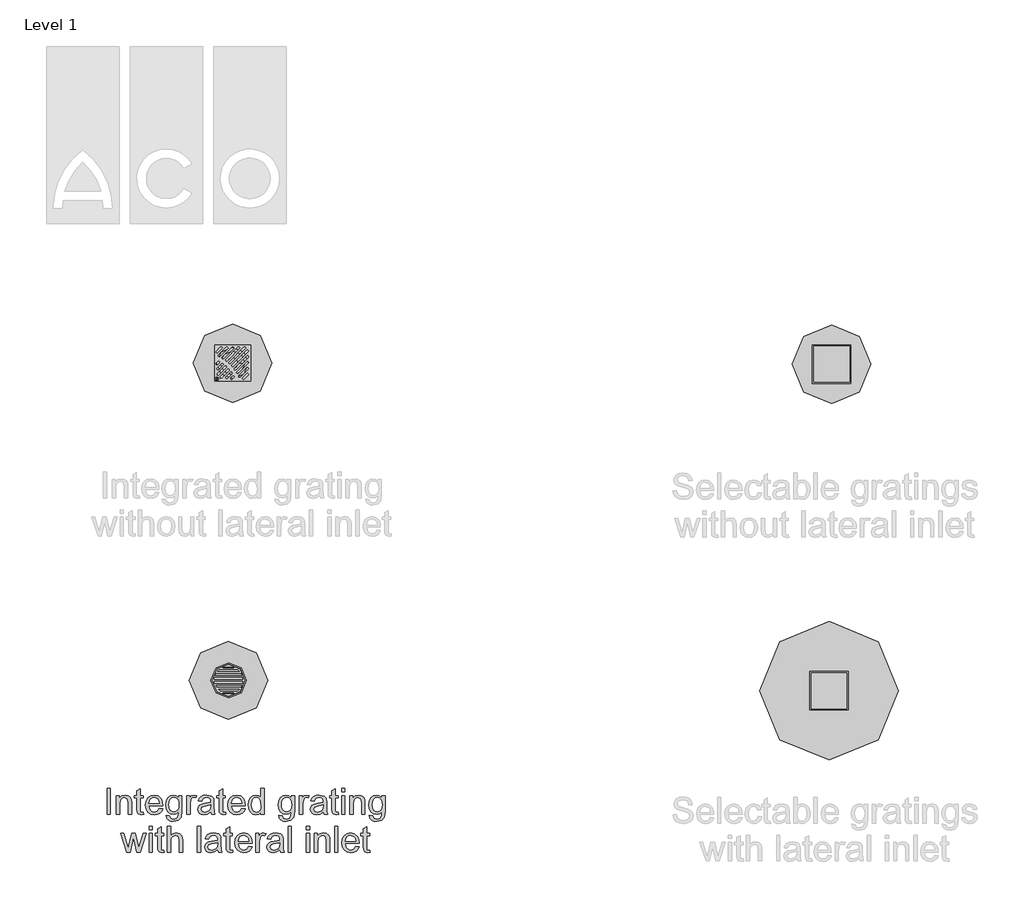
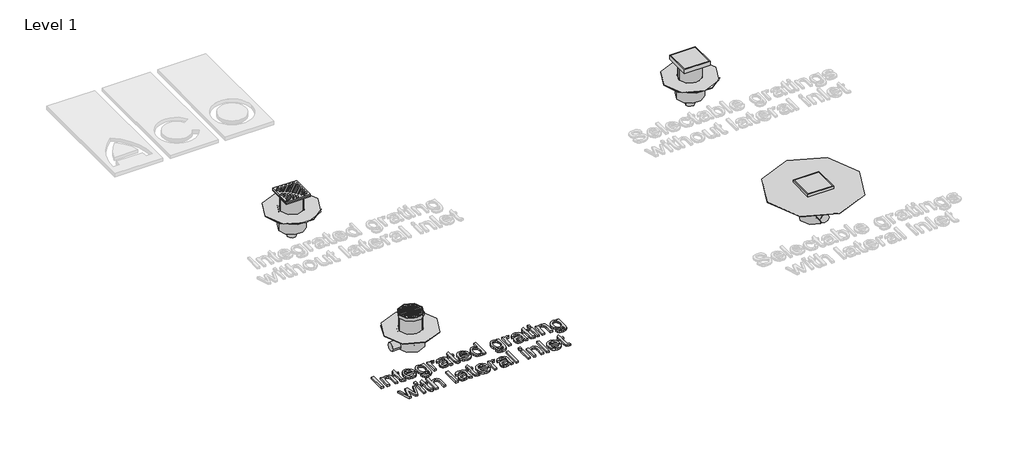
# One storey, part 1 of 4: 15 sanitary terminals, 4 pipe fittings, 1 proxy.
"""IFC4 building model written with IfcOpenShell, lengths in millimetres."""

from ifc_helpers import new_model, si_unit, origin, origin_with_axes, place, context, project, spatial, polyline, outline, extrude, transform, mapped, element, save
from components import std_nested_ba2fb492, std_nested_5614749a, forest_lockable_cee7f754, std_nested_a513f84e, std_nested_aac93e22, std_nested_ec2660e4, std_nested_ef57f552, std_nested_4c5e4d0c, std_nested_a4f35663, std_nested_d89320c1, std_nested_e99c1087

model = new_model("IFC4")

# Units and contexts
model_context = context("Model", 3, world=origin())
ifc_project = project(units=[si_unit("LENGTHUNIT", "METRE", prefix="MILLI")], contexts=[model_context])

# Site, building, storey
site = spatial("IfcSite", under=ifc_project)
building = spatial("IfcBuilding", under=site)
storey = spatial("IfcBuildingStorey", under=building, Name="Level 1", Elevation=0.0)

# Proxy
placement = place(None, origin())
element("IfcBuildingElementProxy", 1, Name="100mm ACO", ObjectType="100mm ACO", at=placement, inside=storey, context=model_context, shape_type="SweptSolid", body=[
    extrude(outline(polyline([(1762.1937772, -2112.0865747), (1749.2308143, -2112.0865747), (1749.2308143, -2012.0865747), (1762.1937772, -2012.0865747), (1762.1937772, -2112.0865747)])), origin_with_axes(), (0.0, 0.0, 1.0), 10.0),
    extrude(outline(polyline([(1843.6752587, -2112.0865747), (1830.7122957, -2112.0865747), (1830.7122957, -2067.1212969), (1826.8494485, -2051.5252321), (1816.1000272, -2047.2717598), (1806.0739856, -2049.9916673), (1799.3610226, -2057.6594913), (1797.3789624, -2071.664121), (1797.3789624, -2112.0865747), (1784.4159994, -2112.0865747), (1784.4159994, -2039.8643524), (1795.5271106, -2039.8643524), (1795.5271106, -2049.9048617), (1805.4229439, -2040.9783571), (1818.6752587, -2038.0125006), (1830.0467865, -2040.0668987), (1838.8430828, -2046.2156256), (1842.8506059, -2054.9540515), (1843.6752587, -2067.4974543), (1843.6752587, -2112.0865747)])), origin_with_axes(), (0.0, 0.0, 1.0), 10.0),
    extrude(outline(polyline([(1889.971555, -2113.0993061), (1880.8859069, -2113.9384265), (1869.2973652, -2111.0593756), (1864.8558143, -2103.7532413), (1864.0456291, -2091.4268524), (1864.0456291, -2049.1236117), (1854.7863698, -2049.1236117), (1854.7863698, -2039.8643524), (1864.0456291, -2039.8643524), (1864.0456291, -2021.519445), (1877.008592, -2013.9384265), (1877.008592, -2039.8643524), (1888.1197031, -2039.8643524), (1888.1197031, -2049.1236117), (1877.008592, -2049.1236117), (1877.008592, -2094.0310191), (1878.0502587, -2102.2486117), (1883.3453976, -2104.6791673), (1888.3801198, -2104.6791673), (1889.971555, -2113.0993061)])), origin_with_axes(), (0.0, 0.0, 1.0), 10.0),
    extrude(outline(polyline([(1964.0456291, -2078.7532413), (1910.3419254, -2078.7532413), (1912.414408, -2089.87882), (1917.1272263, -2098.0240747), (1923.9089103, -2103.0153941), (1932.1879902, -2104.6791673), (1943.8633374, -2100.9899311), (1951.0826661, -2089.8643524), (1964.0456291, -2091.3689821), (1959.6691823, -2100.9899311), (1952.7319717, -2108.0935191), (1943.48718, -2112.4771997), (1932.1879902, -2113.9384265), (1917.60104, -2111.4319161), (1906.5948189, -2103.9123848), (1899.6829265, -2092.0525758), (1897.3789624, -2076.5252321), (1899.5997379, -2060.9870376), (1906.2620643, -2048.6895839), (1916.960849, -2040.6817714), (1931.2909994, -2038.0125006), (1946.5109069, -2041.4702552), (1958.9385689, -2053.2468756), (1962.768864, -2063.7828999), (1964.0456291, -2078.7532413)]), holes=[polyline([(1951.0826661, -2069.4939821), (1948.9993328, -2059.3377321), (1944.2539624, -2052.4800932), (1930.9727124, -2047.2717598), (1923.1168096, -2048.8197923), (1916.7944717, -2053.4638895), (1910.3419254, -2069.4939821), (1951.0826661, -2069.4939821)])]), origin_with_axes(), (0.0, 0.0, 1.0), 10.0),
    extrude(outline(polyline([(2038.1197031, -2101.4384265), (2035.0670411, -2124.0802089), (2024.2018791, -2135.7121534), (2005.5386846, -2139.8643524), (1994.3226835, -2138.4573791), (1985.1538467, -2134.2364589), (1979.0449057, -2126.810967), (1977.008592, -2115.7902784), (1989.971555, -2117.8446765), (1994.5433143, -2127.4077552), (2005.7412309, -2130.6050932), (2019.0514161, -2126.9158571), (2024.2163467, -2117.9314821), (2025.1567402, -2103.3192135), (2016.3821453, -2109.8947344), (2005.5676198, -2112.0865747), (1993.1761268, -2109.4751742), (1983.4900735, -2101.6409728), (1977.2400735, -2089.8281835), (1975.1567402, -2075.2810191), (1977.1388004, -2060.6398154), (1983.0849809, -2048.6606487), (1992.5323189, -2040.6745376), (2005.0178513, -2038.0125006), (2016.0927934, -2040.3924196), (2024.8963235, -2047.5321765), (2025.1567402, -2039.8643524), (2038.1197031, -2039.8643524), (2038.1197031, -2101.4384265)]), holes=[polyline([(2007.5062772, -2102.8273154), (2014.7183721, -2101.2214126), (2021.0768791, -2096.4037043), (2025.5256638, -2087.8099543), (2027.008592, -2074.8759265), (2025.5943849, -2063.0884554), (2021.3517633, -2054.404283), (2015.0258085, -2049.0548906), (2007.3616013, -2047.2717598), (1999.6395237, -2049.0982934), (1993.48718, -2054.5778941), (1989.4615724, -2063.2331314), (1988.1197031, -2074.5865747), (1989.5266765, -2087.3035885), (1993.7475967, -2096.0564821), (2000.0012136, -2101.1346071), (2007.5062772, -2102.8273154)])]), origin_with_axes(), (0.0, 0.0, 1.0), 10.0),
    extrude(outline(polyline([(2095.5271106, -2040.8481487), (2091.4761846, -2049.1236117), (2082.9692402, -2047.2717598), (2077.1749694, -2048.899364), (2072.9866013, -2053.7821765), (2069.6011846, -2072.0113432), (2069.6011846, -2112.0865747), (2056.6382217, -2112.0865747), (2056.6382217, -2039.8643524), (2067.7493328, -2039.8643524), (2067.7493328, -2050.570371), (2074.6793096, -2041.1519682), (2083.1139161, -2038.0125006), (2095.5271106, -2040.8481487)])), origin_with_axes(), (0.0, 0.0, 1.0), 10.0),
    extrude(outline(polyline([(2165.8974809, -2112.0865747), (2152.934518, -2112.0865747), (2149.2308143, -2103.3481487), (2136.7380481, -2111.2908571), (2123.2759531, -2113.9384265), (2113.2896974, -2112.4916673), (2105.668893, -2108.1513895), (2100.8403339, -2101.4384265), (2099.2308143, -2092.8736117), (2100.8077819, -2084.5655967), (2105.5386846, -2077.8707182), (2114.1686036, -2072.977055), (2127.4426198, -2070.0726858), (2138.7852124, -2068.3365747), (2149.2308143, -2065.7902784), (2148.8980596, -2057.7607645), (2146.9594022, -2052.8851858), (2141.7944717, -2048.8197923), (2132.2169254, -2047.2717598), (2120.1364856, -2050.4112274), (2114.0456291, -2062.0865747), (2101.0826661, -2060.4951395), (2104.638077, -2050.6861117), (2111.3112541, -2043.6548617), (2121.0949636, -2039.4230909), (2133.9819717, -2038.0125006), (2153.2383374, -2041.8753478), (2160.7904207, -2051.1924774), (2162.1937772, -2065.2405098), (2162.1937772, -2081.7625006), (2162.7435457, -2102.0171302), (2165.8974809, -2112.0865747)]), holes=[polyline([(2149.2308143, -2079.6791673), (2149.2308143, -2075.0495376), (2125.9524578, -2080.3736117), (2115.6334474, -2084.4317714), (2112.1937772, -2092.6710654), (2115.8974809, -2101.2937506), (2126.5745643, -2104.6791673), (2142.387643, -2099.007871), (2147.5200214, -2091.3400469), (2149.2308143, -2079.6791673)])]), origin_with_axes(), (0.0, 0.0, 1.0), 10.0),
    extrude(outline(polyline([(2208.4900735, -2113.0993061), (2199.4044254, -2113.9384265), (2187.8158837, -2111.0593756), (2183.3743328, -2103.7532413), (2182.5641476, -2091.4268524), (2182.5641476, -2049.1236117), (2173.3048883, -2049.1236117), (2173.3048883, -2039.8643524), (2182.5641476, -2039.8643524), (2182.5641476, -2021.519445), (2195.5271106, -2013.9384265), (2195.5271106, -2039.8643524), (2206.6382217, -2039.8643524), (2206.6382217, -2049.1236117), (2195.5271106, -2049.1236117), (2195.5271106, -2094.0310191), (2196.5687772, -2102.2486117), (2201.8639161, -2104.6791673), (2206.8986383, -2104.6791673), (2208.4900735, -2113.0993061)])), origin_with_axes(), (0.0, 0.0, 1.0), 10.0),
    extrude(outline(polyline([(2282.5641476, -2078.7532413), (2228.8604439, -2078.7532413), (2230.9329265, -2089.87882), (2235.6457448, -2098.0240747), (2242.4274288, -2103.0153941), (2250.7065087, -2104.6791673), (2262.3818559, -2100.9899311), (2269.6011846, -2089.8643524), (2282.5641476, -2091.3689821), (2278.1877008, -2100.9899311), (2271.2504902, -2108.0935191), (2262.0056985, -2112.4771997), (2250.7065087, -2113.9384265), (2236.1195585, -2111.4319161), (2225.1133374, -2103.9123848), (2218.201445, -2092.0525758), (2215.8974809, -2076.5252321), (2218.1182564, -2060.9870376), (2224.7805828, -2048.6895839), (2235.4793675, -2040.6817714), (2249.809518, -2038.0125006), (2265.0294254, -2041.4702552), (2277.4570874, -2053.2468756), (2281.2873825, -2063.7828999), (2282.5641476, -2078.7532413)]), holes=[polyline([(2269.6011846, -2069.4939821), (2267.5178513, -2059.3377321), (2262.7724809, -2052.4800932), (2249.4912309, -2047.2717598), (2241.6353281, -2048.8197923), (2235.3129902, -2053.4638895), (2228.8604439, -2069.4939821), (2269.6011846, -2069.4939821)])]), origin_with_axes(), (0.0, 0.0, 1.0), 10.0),
    extrude(outline(polyline([(2356.6382217, -2112.0865747), (2343.6752587, -2112.0865747), (2343.6752587, -2103.9268524), (2335.320224, -2111.435533), (2323.9414624, -2113.9384265), (2312.0744196, -2111.2980909), (2302.3413467, -2103.3770839), (2295.8417807, -2091.2460075), (2293.6752587, -2075.9754635), (2295.7513582, -2060.2347228), (2301.9796569, -2048.1976858), (2311.6150735, -2040.5587969), (2323.9125272, -2038.0125006), (2335.1972494, -2040.2983802), (2343.414842, -2047.1560191), (2343.6752587, -2012.0865747), (2356.6382217, -2012.0865747), (2356.6382217, -2112.0865747)]), holes=[polyline([(2325.446092, -2104.6791673), (2332.4990434, -2102.9719913), (2338.3801198, -2097.8504635), (2342.351474, -2089.2567135), (2343.6752587, -2077.132871), (2338.8286152, -2055.3736117), (2332.9294543, -2049.2972228), (2324.9252587, -2047.2717598), (2316.9789335, -2049.25382), (2311.2533837, -2055.2000006), (2306.6382217, -2076.0043987), (2309.1266476, -2091.7596071), (2316.071092, -2101.4384265), (2325.446092, -2104.6791673)])]), origin_with_axes(), (0.0, 0.0, 1.0), 10.0),
    extrude(outline(polyline([(2473.3048883, -2101.4384265), (2470.2522263, -2124.0802089), (2459.3870643, -2135.7121534), (2440.7238698, -2139.8643524), (2429.5078687, -2138.4573791), (2420.3390319, -2134.2364589), (2414.2300909, -2126.810967), (2412.1937772, -2115.7902784), (2425.1567402, -2117.8446765), (2429.7284994, -2127.4077552), (2440.9264161, -2130.6050932), (2454.2366013, -2126.9158571), (2459.4015319, -2117.9314821), (2460.3419254, -2103.3192135), (2451.5673305, -2109.8947344), (2440.752805, -2112.0865747), (2428.3613119, -2109.4751742), (2418.6752587, -2101.6409728), (2412.4252587, -2089.8281835), (2410.3419254, -2075.2810191), (2412.3239856, -2060.6398154), (2418.2701661, -2048.6606487), (2427.7175041, -2040.6745376), (2440.2030365, -2038.0125006), (2451.2779786, -2040.3924196), (2460.0815087, -2047.5321765), (2460.3419254, -2039.8643524), (2473.3048883, -2039.8643524), (2473.3048883, -2101.4384265)]), holes=[polyline([(2442.6914624, -2102.8273154), (2449.9035573, -2101.2214126), (2456.2620643, -2096.4037043), (2460.710849, -2087.8099543), (2462.1937772, -2074.8759265), (2460.77957, -2063.0884554), (2456.5369485, -2054.404283), (2450.2109937, -2049.0548906), (2442.5467865, -2047.2717598), (2434.8247089, -2049.0982934), (2428.6723652, -2054.5778941), (2424.6467575, -2063.2331314), (2423.3048883, -2074.5865747), (2424.7118617, -2087.3035885), (2428.9327819, -2096.0564821), (2435.1863987, -2101.1346071), (2442.6914624, -2102.8273154)])]), origin_with_axes(), (0.0, 0.0, 1.0), 10.0),
    extrude(outline(polyline([(2530.7122957, -2040.8481487), (2526.6613698, -2049.1236117), (2518.1544254, -2047.2717598), (2512.3601545, -2048.899364), (2508.1717865, -2053.7821765), (2504.7863698, -2072.0113432), (2504.7863698, -2112.0865747), (2491.8234069, -2112.0865747), (2491.8234069, -2039.8643524), (2502.934518, -2039.8643524), (2502.934518, -2050.570371), (2509.8644948, -2041.1519682), (2518.2991013, -2038.0125006), (2530.7122957, -2040.8481487)])), origin_with_axes(), (0.0, 0.0, 1.0), 10.0),
    extrude(outline(polyline([(2601.0826661, -2112.0865747), (2588.1197031, -2112.0865747), (2584.4159994, -2103.3481487), (2571.9232332, -2111.2908571), (2558.4611383, -2113.9384265), (2548.4748825, -2112.4916673), (2540.8540781, -2108.1513895), (2536.0255191, -2101.4384265), (2534.4159994, -2092.8736117), (2535.992967, -2084.5655967), (2540.7238698, -2077.8707182), (2549.3537888, -2072.977055), (2562.627805, -2070.0726858), (2573.9703976, -2068.3365747), (2584.4159994, -2065.7902784), (2584.0832448, -2057.7607645), (2582.1445874, -2052.8851858), (2576.9796569, -2048.8197923), (2567.4021106, -2047.2717598), (2555.3216707, -2050.4112274), (2549.2308143, -2062.0865747), (2536.2678513, -2060.4951395), (2539.8232622, -2050.6861117), (2546.4964393, -2043.6548617), (2556.2801487, -2039.4230909), (2569.1671569, -2038.0125006), (2588.4235226, -2041.8753478), (2595.9756059, -2051.1924774), (2597.3789624, -2065.2405098), (2597.3789624, -2081.7625006), (2597.9287309, -2102.0171302), (2601.0826661, -2112.0865747)]), holes=[polyline([(2584.4159994, -2079.6791673), (2584.4159994, -2075.0495376), (2561.137643, -2080.3736117), (2550.8186325, -2084.4317714), (2547.3789624, -2092.6710654), (2551.0826661, -2101.2937506), (2561.7597494, -2104.6791673), (2577.5728281, -2099.007871), (2582.7052066, -2091.3400469), (2584.4159994, -2079.6791673)])]), origin_with_axes(), (0.0, 0.0, 1.0), 10.0),
    extrude(outline(polyline([(2643.6752587, -2113.0993061), (2634.5896106, -2113.9384265), (2623.0010689, -2111.0593756), (2618.559518, -2103.7532413), (2617.7493328, -2091.4268524), (2617.7493328, -2049.1236117), (2608.4900735, -2049.1236117), (2608.4900735, -2039.8643524), (2617.7493328, -2039.8643524), (2617.7493328, -2021.519445), (2630.7122957, -2013.9384265), (2630.7122957, -2039.8643524), (2641.8234069, -2039.8643524), (2641.8234069, -2049.1236117), (2630.7122957, -2049.1236117), (2630.7122957, -2094.0310191), (2631.7539624, -2102.2486117), (2637.0491013, -2104.6791673), (2642.0838235, -2104.6791673), (2643.6752587, -2113.0993061)])), origin_with_axes(), (0.0, 0.0, 1.0), 10.0),
    extrude(outline(polyline([(2667.7493328, -2025.0495376), (2654.7863698, -2025.0495376), (2654.7863698, -2012.0865747), (2667.7493328, -2012.0865747), (2667.7493328, -2025.0495376)])), origin_with_axes(), (0.0, 0.0, 1.0), 10.0),
    extrude(outline(polyline([(2667.7493328, -2112.0865747), (2654.7863698, -2112.0865747), (2654.7863698, -2039.8643524), (2667.7493328, -2039.8643524), (2667.7493328, -2112.0865747)])), origin_with_axes(), (0.0, 0.0, 1.0), 10.0),
    extrude(outline(polyline([(2745.5271106, -2112.0865747), (2732.5641476, -2112.0865747), (2732.5641476, -2067.1212969), (2728.7013004, -2051.5252321), (2717.9518791, -2047.2717598), (2707.9258374, -2049.9916673), (2701.2128744, -2057.6594913), (2699.2308143, -2071.664121), (2699.2308143, -2112.0865747), (2686.2678513, -2112.0865747), (2686.2678513, -2039.8643524), (2697.3789624, -2039.8643524), (2697.3789624, -2049.9048617), (2707.2747957, -2040.9783571), (2720.5271106, -2038.0125006), (2731.8986383, -2040.0668987), (2740.6949346, -2046.2156256), (2744.7024578, -2054.9540515), (2745.5271106, -2067.4974543), (2745.5271106, -2112.0865747)])), origin_with_axes(), (0.0, 0.0, 1.0), 10.0),
    extrude(outline(polyline([(2823.3048883, -2101.4384265), (2820.2522263, -2124.0802089), (2809.3870643, -2135.7121534), (2790.7238698, -2139.8643524), (2779.5078687, -2138.4573791), (2770.3390319, -2134.2364589), (2764.2300909, -2126.810967), (2762.1937772, -2115.7902784), (2775.1567402, -2117.8446765), (2779.7284994, -2127.4077552), (2790.9264161, -2130.6050932), (2804.2366013, -2126.9158571), (2809.4015319, -2117.9314821), (2810.3419254, -2103.3192135), (2801.5673305, -2109.8947344), (2790.752805, -2112.0865747), (2778.3613119, -2109.4751742), (2768.6752587, -2101.6409728), (2762.4252587, -2089.8281835), (2760.3419254, -2075.2810191), (2762.3239856, -2060.6398154), (2768.2701661, -2048.6606487), (2777.7175041, -2040.6745376), (2790.2030365, -2038.0125006), (2801.2779786, -2040.3924196), (2810.0815087, -2047.5321765), (2810.3419254, -2039.8643524), (2823.3048883, -2039.8643524), (2823.3048883, -2101.4384265)]), holes=[polyline([(2792.6914624, -2102.8273154), (2799.9035573, -2101.2214126), (2806.2620643, -2096.4037043), (2810.710849, -2087.8099543), (2812.1937772, -2074.8759265), (2810.77957, -2063.0884554), (2806.5369485, -2054.404283), (2800.2109937, -2049.0548906), (2792.5467865, -2047.2717598), (2784.8247089, -2049.0982934), (2778.6723652, -2054.5778941), (2774.6467575, -2063.2331314), (2773.3048883, -2074.5865747), (2774.7118617, -2087.3035885), (2778.9327819, -2096.0564821), (2785.1863987, -2101.1346071), (2792.6914624, -2102.8273154)])]), origin_with_axes(), (0.0, 0.0, 1.0), 10.0),
    extrude(outline(polyline([(1900.6197031, -2186.1606487), (1876.4009531, -2258.382871), (1864.1324346, -2258.382871), (1853.6289624, -2214.9800932), (1852.3268791, -2209.1207182), (1851.0826661, -2202.7115747), (1838.3222494, -2258.382871), (1826.0826661, -2258.382871), (1801.5456291, -2186.1606487), (1813.090768, -2186.1606487), (1830.7122957, -2243.394445), (1832.8245643, -2233.6432876), (1843.8488698, -2186.1606487), (1858.4322031, -2186.1606487), (1867.1706291, -2224.0368061), (1871.221555, -2241.831945), (1889.0745643, -2186.1606487), (1900.6197031, -2186.1606487)])), origin_with_axes(), (0.0, 0.0, 1.0), 10.0),
    extrude(outline(polyline([(1924.2308143, -2171.3458339), (1911.2678513, -2171.3458339), (1911.2678513, -2158.382871), (1924.2308143, -2158.382871), (1924.2308143, -2171.3458339)])), origin_with_axes(), (0.0, 0.0, 1.0), 10.0),
    extrude(outline(polyline([(1924.2308143, -2258.382871), (1911.2678513, -2258.382871), (1911.2678513, -2186.1606487), (1924.2308143, -2186.1606487), (1924.2308143, -2258.382871)])), origin_with_axes(), (0.0, 0.0, 1.0), 10.0),
    extrude(outline(polyline([(1970.5271106, -2259.3956024), (1961.4414624, -2260.2347228), (1949.8529207, -2257.3556719), (1945.4113698, -2250.0495376), (1944.6011846, -2237.7231487), (1944.6011846, -2195.419908), (1935.3419254, -2195.419908), (1935.3419254, -2186.1606487), (1944.6011846, -2186.1606487), (1944.6011846, -2167.8157413), (1957.5641476, -2160.2347228), (1957.5641476, -2186.1606487), (1968.6752587, -2186.1606487), (1968.6752587, -2195.419908), (1957.5641476, -2195.419908), (1957.5641476, -2240.3273154), (1958.6058143, -2248.544908), (1963.9009531, -2250.9754635), (1968.9356754, -2250.9754635), (1970.5271106, -2259.3956024)])), origin_with_axes(), (0.0, 0.0, 1.0), 10.0),
    extrude(outline(polyline([(2040.8974809, -2258.382871), (2027.934518, -2258.382871), (2027.934518, -2211.6814821), (2024.2452819, -2198.0964126), (2013.2354439, -2193.5680561), (2000.3014161, -2198.9065978), (1996.0262425, -2206.3393235), (1994.6011846, -2217.9604173), (1994.6011846, -2258.382871), (1981.6382217, -2258.382871), (1981.6382217, -2158.382871), (1994.6011846, -2158.382871), (1994.6011846, -2194.2046302), (2004.3017055, -2186.7827552), (2016.1578976, -2184.3087969), (2029.4391476, -2187.1733802), (2038.336717, -2195.9841441), (2040.8974809, -2212.4916673), (2040.8974809, -2258.382871)])), origin_with_axes(), (0.0, 0.0, 1.0), 10.0),
    extrude(outline(polyline([(2111.2678513, -2258.382871), (2098.3048883, -2258.382871), (2098.3048883, -2158.382871), (2111.2678513, -2158.382871), (2111.2678513, -2258.382871)])), origin_with_axes(), (0.0, 0.0, 1.0), 10.0),
    extrude(outline(polyline([(2192.7493328, -2258.382871), (2179.7863698, -2258.382871), (2176.0826661, -2249.644445), (2163.5898999, -2257.5871534), (2150.127805, -2260.2347228), (2140.1415492, -2258.7879635), (2132.5207448, -2254.4476858), (2127.6921858, -2247.7347228), (2126.0826661, -2239.169908), (2127.6596337, -2230.8618929), (2132.3905365, -2224.1670145), (2141.0204555, -2219.2733513), (2154.2944717, -2216.3689821), (2165.6370643, -2214.632871), (2176.0826661, -2212.0865747), (2175.7499115, -2204.0570608), (2173.8112541, -2199.1814821), (2168.6463235, -2195.1160885), (2159.0687772, -2193.5680561), (2146.9883374, -2196.7075237), (2140.8974809, -2208.382871), (2127.934518, -2206.7914358), (2131.4899288, -2196.982408), (2138.1631059, -2189.951158), (2147.9468154, -2185.7193872), (2160.8338235, -2184.3087969), (2180.0901893, -2188.1716441), (2187.6422726, -2197.4887737), (2189.0456291, -2211.5368061), (2189.0456291, -2228.0587969), (2189.5953976, -2248.3134265), (2192.7493328, -2258.382871)]), holes=[polyline([(2176.0826661, -2225.9754635), (2176.0826661, -2221.3458339), (2152.8043096, -2226.669908), (2142.4852992, -2230.7280677), (2139.0456291, -2238.9673617), (2142.7493328, -2247.5900469), (2153.4264161, -2250.9754635), (2169.2394948, -2245.3041673), (2174.3718733, -2237.6363432), (2176.0826661, -2225.9754635)])]), origin_with_axes(), (0.0, 0.0, 1.0), 10.0),
    extrude(outline(polyline([(2235.3419254, -2259.3956024), (2226.2562772, -2260.2347228), (2214.6677356, -2257.3556719), (2210.2261846, -2250.0495376), (2209.4159994, -2237.7231487), (2209.4159994, -2195.419908), (2200.1567402, -2195.419908), (2200.1567402, -2186.1606487), (2209.4159994, -2186.1606487), (2209.4159994, -2167.8157413), (2222.3789624, -2160.2347228), (2222.3789624, -2186.1606487), (2233.4900735, -2186.1606487), (2233.4900735, -2195.419908), (2222.3789624, -2195.419908), (2222.3789624, -2240.3273154), (2223.4206291, -2248.544908), (2228.715768, -2250.9754635), (2233.7504902, -2250.9754635), (2235.3419254, -2259.3956024)])), origin_with_axes(), (0.0, 0.0, 1.0), 10.0),
    extrude(outline(polyline([(2309.4159994, -2225.0495376), (2255.7122957, -2225.0495376), (2257.7847784, -2236.1751163), (2262.4975967, -2244.320371), (2269.2792807, -2249.3116904), (2277.5583606, -2250.9754635), (2289.2337078, -2247.2862274), (2296.4530365, -2236.1606487), (2309.4159994, -2237.6652784), (2305.0395527, -2247.2862274), (2298.102342, -2254.3898154), (2288.8575504, -2258.773496), (2277.5583606, -2260.2347228), (2262.9714103, -2257.7282124), (2251.9651893, -2250.2086811), (2245.0532969, -2238.3488721), (2242.7493328, -2222.8215284), (2244.9701082, -2207.2833339), (2251.6324346, -2194.9858802), (2262.3312194, -2186.9780677), (2276.6613698, -2184.3087969), (2291.8812772, -2187.7665515), (2304.3089393, -2199.5431719), (2308.1392344, -2210.0791962), (2309.4159994, -2225.0495376)]), holes=[polyline([(2296.4530365, -2215.7902784), (2294.3697031, -2205.6340284), (2289.6243328, -2198.7763895), (2276.3430828, -2193.5680561), (2268.48718, -2195.1160885), (2262.164842, -2199.7601858), (2255.7122957, -2215.7902784), (2296.4530365, -2215.7902784)])]), origin_with_axes(), (0.0, 0.0, 1.0), 10.0),
    extrude(outline(polyline([(2363.1197031, -2187.144445), (2359.0687772, -2195.419908), (2350.5618328, -2193.5680561), (2344.7675619, -2195.1956603), (2340.5791939, -2200.0784728), (2337.1937772, -2218.3076395), (2337.1937772, -2258.382871), (2324.2308143, -2258.382871), (2324.2308143, -2186.1606487), (2335.3419254, -2186.1606487), (2335.3419254, -2196.8666673), (2342.2719022, -2187.4482645), (2350.7065087, -2184.3087969), (2363.1197031, -2187.144445)])), origin_with_axes(), (0.0, 0.0, 1.0), 10.0),
    extrude(outline(polyline([(2433.4900735, -2258.382871), (2420.5271106, -2258.382871), (2416.8234069, -2249.644445), (2404.3306406, -2257.5871534), (2390.8685457, -2260.2347228), (2380.88229, -2258.7879635), (2373.2614856, -2254.4476858), (2368.4329265, -2247.7347228), (2366.8234069, -2239.169908), (2368.4003744, -2230.8618929), (2373.1312772, -2224.1670145), (2381.7611962, -2219.2733513), (2395.0352124, -2216.3689821), (2406.377805, -2214.632871), (2416.8234069, -2212.0865747), (2416.4906522, -2204.0570608), (2414.5519948, -2199.1814821), (2409.3870643, -2195.1160885), (2399.809518, -2193.5680561), (2387.7290781, -2196.7075237), (2381.6382217, -2208.382871), (2368.6752587, -2206.7914358), (2372.2306696, -2196.982408), (2378.9038467, -2189.951158), (2388.6875562, -2185.7193872), (2401.5745643, -2184.3087969), (2420.83093, -2188.1716441), (2428.3830133, -2197.4887737), (2429.7863698, -2211.5368061), (2429.7863698, -2228.0587969), (2430.3361383, -2248.3134265), (2433.4900735, -2258.382871)]), holes=[polyline([(2416.8234069, -2225.9754635), (2416.8234069, -2221.3458339), (2393.5450504, -2226.669908), (2383.22604, -2230.7280677), (2379.7863698, -2238.9673617), (2383.4900735, -2247.5900469), (2394.1671569, -2250.9754635), (2409.9802356, -2245.3041673), (2415.112614, -2237.6363432), (2416.8234069, -2225.9754635)])]), origin_with_axes(), (0.0, 0.0, 1.0), 10.0),
    extrude(outline(polyline([(2461.2678513, -2258.382871), (2448.3048883, -2258.382871), (2448.3048883, -2158.382871), (2461.2678513, -2158.382871), (2461.2678513, -2258.382871)])), origin_with_axes(), (0.0, 0.0, 1.0), 10.0),
    extrude(outline(polyline([(2531.6382217, -2258.382871), (2518.6752587, -2258.382871), (2518.6752587, -2186.1606487), (2531.6382217, -2186.1606487), (2531.6382217, -2258.382871)])), origin_with_axes(), (0.0, 0.0, 1.0), 10.0),
    extrude(outline(polyline([(2531.6382217, -2171.3458339), (2518.6752587, -2171.3458339), (2518.6752587, -2158.382871), (2531.6382217, -2158.382871), (2531.6382217, -2171.3458339)])), origin_with_axes(), (0.0, 0.0, 1.0), 10.0),
    extrude(outline(polyline([(2609.4159994, -2258.382871), (2596.4530365, -2258.382871), (2596.4530365, -2213.4175932), (2592.5901893, -2197.8215284), (2581.840768, -2193.5680561), (2571.8147263, -2196.2879635), (2565.1017633, -2203.9557876), (2563.1197031, -2217.9604173), (2563.1197031, -2258.382871), (2550.1567402, -2258.382871), (2550.1567402, -2186.1606487), (2561.2678513, -2186.1606487), (2561.2678513, -2196.201158), (2571.1636846, -2187.2746534), (2584.4159994, -2184.3087969), (2595.7875272, -2186.363195), (2604.5838235, -2192.5119219), (2608.5913467, -2201.2503478), (2609.4159994, -2213.7937506), (2609.4159994, -2258.382871)])), origin_with_axes(), (0.0, 0.0, 1.0), 10.0),
    extrude(outline(polyline([(2640.8974809, -2258.382871), (2627.934518, -2258.382871), (2627.934518, -2158.382871), (2640.8974809, -2158.382871), (2640.8974809, -2258.382871)])), origin_with_axes(), (0.0, 0.0, 1.0), 10.0),
    extrude(outline(polyline([(2722.3789624, -2225.0495376), (2668.6752587, -2225.0495376), (2670.7477413, -2236.1751163), (2675.4605596, -2244.320371), (2682.2422437, -2249.3116904), (2690.5213235, -2250.9754635), (2702.1966707, -2247.2862274), (2709.4159994, -2236.1606487), (2722.3789624, -2237.6652784), (2718.0025156, -2247.2862274), (2711.065305, -2254.3898154), (2701.8205133, -2258.773496), (2690.5213235, -2260.2347228), (2675.9343733, -2257.7282124), (2664.9281522, -2250.2086811), (2658.0162599, -2238.3488721), (2655.7122957, -2222.8215284), (2657.9330712, -2207.2833339), (2664.5953976, -2194.9858802), (2675.2941823, -2186.9780677), (2689.6243328, -2184.3087969), (2704.8442402, -2187.7665515), (2717.2719022, -2199.5431719), (2721.1021974, -2210.0791962), (2722.3789624, -2225.0495376)]), holes=[polyline([(2709.4159994, -2215.7902784), (2707.3326661, -2205.6340284), (2702.5872957, -2198.7763895), (2689.3060457, -2193.5680561), (2681.450143, -2195.1160885), (2675.127805, -2199.7601858), (2668.6752587, -2215.7902784), (2709.4159994, -2215.7902784)])]), origin_with_axes(), (0.0, 0.0, 1.0), 10.0),
    extrude(outline(polyline([(2764.971555, -2259.3956024), (2755.8859069, -2260.2347228), (2744.2973652, -2257.3556719), (2739.8558143, -2250.0495376), (2739.0456291, -2237.7231487), (2739.0456291, -2195.419908), (2729.7863698, -2195.419908), (2729.7863698, -2186.1606487), (2739.0456291, -2186.1606487), (2739.0456291, -2167.8157413), (2752.008592, -2160.2347228), (2752.008592, -2186.1606487), (2763.1197031, -2186.1606487), (2763.1197031, -2195.419908), (2752.008592, -2195.419908), (2752.008592, -2240.3273154), (2753.0502587, -2248.544908), (2758.3453976, -2250.9754635), (2763.3801198, -2250.9754635), (2764.971555, -2259.3956024)])), origin_with_axes(), (0.0, 0.0, 1.0), 10.0),
])

# Pipe fittings
std_nested_shape = std_nested_ba2fb492(model_context)
element("IfcPipeFitting", 2, ObjectType="ZZZ_do_not_use_PIF_UN_Gully bodies_With lateral inlet_ACO : std(nested)", at=placement, inside=storey, context=model_context, shape_type="MappedRepresentation", body=[
    mapped(std_nested_shape, transform((2218.0357745, -1594.5724974, 35.0), x_axis=(-1.0, 0.0, 0.0), y_axis=(0.0, -1.0, 0.0), z_axis=(0.0, 0.0, 1.0))),
])
element("IfcPipeFitting", 3, ObjectType="ZZZ_do_not_use_PIF_UN_Gully bodies_With lateral inlet_ACO : std(nested)", at=placement, inside=storey, context=model_context, shape_type="MappedRepresentation", body=[
    mapped(std_nested_shape, transform((4538.0357745, -1634.5724974, 35.0), x_axis=(0.0, 1.0, 0.0), y_axis=(-1.0, 0.0, 0.0), z_axis=(0.0, 0.0, 1.0))),
])
std_nested_2_shape = std_nested_5614749a(model_context)
element("IfcPipeFitting", 4, ObjectType="ZZZ_do_not_use_PIF_UN_Gully bodies_Without lateral inlet_ACO : std(nested)", at=placement, inside=storey, context=model_context, shape_type="MappedRepresentation", body=[
    mapped(std_nested_2_shape, transform((2233.8092772, -368.3460001, 23.4529946), x_axis=(1.0, 0.0, 0.0), y_axis=(0.0, 1.0, 0.0), z_axis=(0.0, 0.0, 1.0))),
])
element("IfcPipeFitting", 5, ObjectType="ZZZ_do_not_use_PIF_UN_Gully bodies_Without lateral inlet_ACO : std(nested)", at=placement, inside=storey, context=model_context, shape_type="MappedRepresentation", body=[
    mapped(std_nested_2_shape, transform((4548.0357745, -372.5724974, 25.0), x_axis=(1.0, 0.0, 0.0), y_axis=(0.0, 1.0, 0.0), z_axis=(0.0, 0.0, 1.0))),
])

# Sanitary terminals
forest_lockable_shape = forest_lockable_cee7f754(model_context)
element("IfcSanitaryTerminal", 6, ObjectType="ZZZ_do_not_use_PF_UN_gratings_ACO : Forest_Lockable", at=placement, inside=storey, context=model_context, shape_type="MappedRepresentation", body=[
    mapped(forest_lockable_shape, transform((4548.0357745, -372.5724974, 87.0938197), x_axis=(1.0, 0.0, 0.0), y_axis=(0.0, 1.0, 0.0), z_axis=(0.0, 0.0, 1.0))),
])
element("IfcSanitaryTerminal", 7, ObjectType="ZZZ_do_not_use_PF_UN_gratings_ACO : Forest_Placed loosely_Square", at=placement, inside=storey, context=model_context, shape_type="MappedRepresentation", body=[
    mapped(forest_lockable_shape, transform((4538.0357745, -1634.5724974, 87.0938197), x_axis=(1.0, 0.0, 0.0), y_axis=(0.0, 1.0, 0.0), z_axis=(0.0, 0.0, 1.0))),
])
std_nested_3_shape = std_nested_a513f84e(model_context)
element("IfcSanitaryTerminal", 8, ObjectType="ZZZ_do_not_use_PF_UN_Thin-bed flange_ACO : std(nested)", at=placement, inside=storey, context=model_context, shape_type="MappedRepresentation", body=[
    mapped(std_nested_3_shape, transform((4538.0357745, -1634.5724974, -26.0), x_axis=(1.0, 0.0, 0.0), y_axis=(0.0, 1.0, 0.0), z_axis=(0.0, 0.0, 1.0))),
])
std_nested_4_shape = std_nested_aac93e22(model_context)
element("IfcSanitaryTerminal", 9, ObjectType="ZZZ_do_not_use_PF_UN_Top section with grating_ACO : std(nested)", at=placement, inside=storey, context=model_context, shape_type="MappedRepresentation", body=[
    mapped(std_nested_4_shape, transform((2233.8092772, -368.3460001, -11.5470054), x_axis=(1.0, 0.0, 0.0), y_axis=(0.0, 1.0, 0.0), z_axis=(0.0, 0.0, 1.0))),
])
std_nested_5_shape = std_nested_ec2660e4(model_context)
element("IfcSanitaryTerminal", 10, ObjectType="ZZZ_do_not_use_PF_UN_Top section with grating_ACO : std(nested)", at=placement, inside=storey, context=model_context, shape_type="MappedRepresentation", body=[
    mapped(std_nested_5_shape, transform((2218.0357745, -1594.5724974, 0.0), x_axis=(1.0, 0.0, 0.0), y_axis=(0.0, 1.0, 0.0), z_axis=(0.0, 0.0, 1.0))),
])
std_nested_6_shape = std_nested_ef57f552(model_context)
element("IfcSanitaryTerminal", 11, ObjectType="ZZZ_do_not_use_PF_UN_foul air trap_ACO : std(nested)", at=placement, inside=storey, context=model_context, shape_type="MappedRepresentation", body=[
    mapped(std_nested_6_shape, transform((2233.8092772, -368.3460001, -126.5470054), x_axis=(1.0, 0.0, 0.0), y_axis=(0.0, 1.0, 0.0), z_axis=(0.0, 0.0, 1.0))),
])
element("IfcSanitaryTerminal", 12, ObjectType="ZZZ_do_not_use_PF_UN_foul air trap_ACO : std(nested)", at=placement, inside=storey, context=model_context, shape_type="MappedRepresentation", body=[
    mapped(std_nested_6_shape, transform((4548.0357745, -372.5724974, -125.0), x_axis=(1.0, 0.0, 0.0), y_axis=(0.0, 1.0, 0.0), z_axis=(0.0, 0.0, 1.0))),
])
std_nested_7_shape = std_nested_4c5e4d0c(model_context)
element("IfcSanitaryTerminal", 13, ObjectType="ZZZ_do_not_use_PF_UN_compressed seal flange_ACO : std(nested)", at=placement, inside=storey, context=model_context, shape_type="MappedRepresentation", body=[
    mapped(std_nested_7_shape, transform((2233.8092772, -368.3460001, -114.5470054), x_axis=(1.0, 0.0, 0.0), y_axis=(0.0, 1.0, 0.0), z_axis=(0.0, 0.0, 1.0))),
])
element("IfcSanitaryTerminal", 14, ObjectType="ZZZ_do_not_use_PF_UN_compressed seal flange_ACO : std(nested)", at=placement, inside=storey, context=model_context, shape_type="MappedRepresentation", body=[
    mapped(std_nested_7_shape, transform((2218.0357745, -1594.5724974, -103.0), x_axis=(-1.0, 0.0, 0.0), y_axis=(0.0, -1.0, 0.0), z_axis=(0.0, 0.0, 1.0))),
])
element("IfcSanitaryTerminal", 15, ObjectType="ZZZ_do_not_use_PF_UN_compressed seal flange_ACO : std(nested)", at=placement, inside=storey, context=model_context, shape_type="MappedRepresentation", body=[
    mapped(std_nested_7_shape, transform((4538.0357745, -1634.5724974, -103.0), x_axis=(0.0, 1.0, 0.0), y_axis=(-1.0, 0.0, 0.0), z_axis=(0.0, 0.0, 1.0))),
])
element("IfcSanitaryTerminal", 16, ObjectType="ZZZ_do_not_use_PF_UN_compressed seal flange_ACO : std(nested)", at=placement, inside=storey, context=model_context, shape_type="MappedRepresentation", body=[
    mapped(std_nested_7_shape, transform((4548.0357745, -372.5724974, -113.0), x_axis=(1.0, 0.0, 0.0), y_axis=(0.0, 1.0, 0.0), z_axis=(0.0, 0.0, 1.0))),
])
std_nested_8_shape = std_nested_a4f35663(model_context)
element("IfcSanitaryTerminal", 17, ObjectType="ZZZ_do_not_use_PF_UN_foul air trap_ACO : std(nested)", at=placement, inside=storey, context=model_context, shape_type="MappedRepresentation", body=[
    mapped(std_nested_8_shape, transform((2218.0357745, -1594.5724974, -115.0), x_axis=(-1.0, 0.0, 0.0), y_axis=(0.0, -1.0, 0.0), z_axis=(0.0, 0.0, 1.0))),
])
element("IfcSanitaryTerminal", 18, ObjectType="ZZZ_do_not_use_PF_UN_foul air trap_ACO : std(nested)", at=placement, inside=storey, context=model_context, shape_type="MappedRepresentation", body=[
    mapped(std_nested_8_shape, transform((4538.0357745, -1634.5724974, -115.0), x_axis=(0.0, 1.0, 0.0), y_axis=(-1.0, 0.0, 0.0), z_axis=(0.0, 0.0, 1.0))),
])
std_nested_9_shape = std_nested_d89320c1(model_context)
element("IfcSanitaryTerminal", 19, ObjectType="ZZZ_do_not_use_PF_UN_top section without grating_ACO : std(nested)", at=placement, inside=storey, context=model_context, shape_type="MappedRepresentation", body=[
    mapped(std_nested_9_shape, transform((4538.0357745, -1634.5724974, 0.0), x_axis=(1.0, 0.0, 0.0), y_axis=(0.0, 1.0, 0.0), z_axis=(0.0, 0.0, 1.0))),
])
std_nested_10_shape = std_nested_e99c1087(model_context)
element("IfcSanitaryTerminal", 20, ObjectType="ZZZ_do_not_use_PF_UN_top section without grating_ACO : std(nested)", at=placement, inside=storey, context=model_context, shape_type="MappedRepresentation", body=[
    mapped(std_nested_10_shape, transform((4548.0357745, -372.5724974, 0.0), x_axis=(1.0, 0.0, 0.0), y_axis=(0.0, 1.0, 0.0), z_axis=(0.0, 0.0, 1.0))),
])

save(model, "model.ifc")
